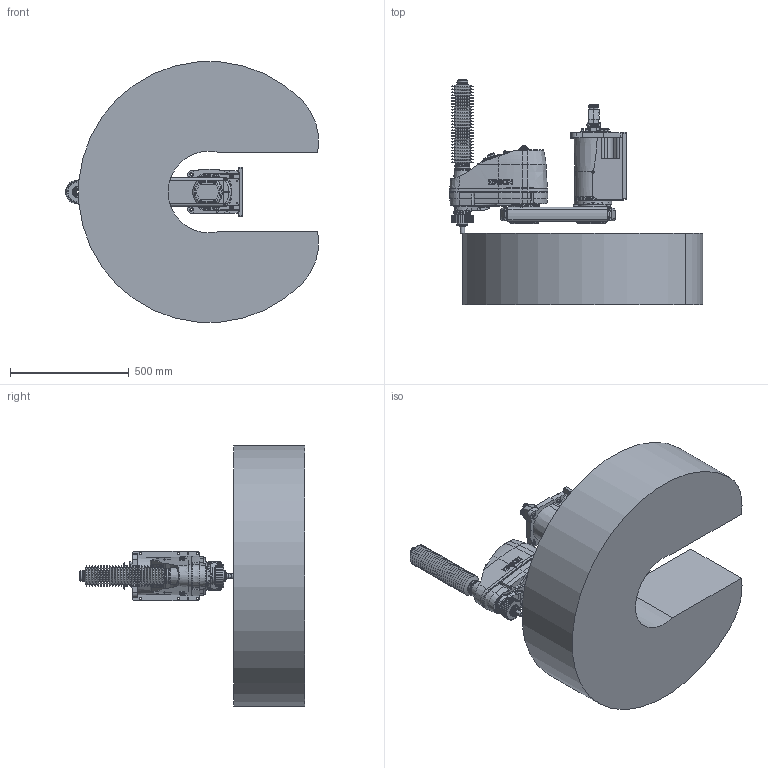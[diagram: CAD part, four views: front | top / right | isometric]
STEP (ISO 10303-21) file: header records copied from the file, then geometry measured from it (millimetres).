
FILE_DESCRIPTION( ( 'STEP AP214' ), '1' );
FILE_NAME( 'C:/Users/9607552/Desktop/GX8-B553CW_straight.stp', '2023-07-07T02:41:34', ( '' ), ( '' ), ' ', 'PARTsolutions', ' ' );
FILE_SCHEMA( ( 'AUTOMOTIVE_DESIGN { 1 0 10303 214 1 1 1 1 }' ) );
Length unit declared in the file: millimetre
Products named in the file (11): GX8-B553CWS-W; _B552CW_BASE; _B552CR; _B552CR_1; _B552CR_2; _B452C_J2; _B453CZA; _2-B-long; _2-B-short; _Straight-B; _GX8-18-1-B_WS
Assembly tree (12 placements, depth 2):
  GX8-B553CWS-W
    _B552CW_BASE
    _B552CR
    _B552CR_1  x2
    _B552CR_2  x2
    _B452C_J2
    _B453CZA
    _2-B-long
    _2-B-short
    _Straight-B
    _GX8-18-1-B_WS
Bounding box: 1066.99 x 950.5 x 1095.81 mm (x, y, z)
Volume: 238981863.1 mm3; surface area: 4332260.7 mm2
Topology: 12 solids, 16 shells, 3420 faces, 8227 edges, 5296 vertices
Faces by surface type: plane 1618, cylinder 1122, cone 476, torus 162, bspline 37, sphere 5
Full cylindrical faces by diameter (mm): 1 x48, 1.18 x55, 2.261 x4, 2.459 x12, 3 x32, 3.242 x18, 3.3 x4, 3.9 x4, 4.2 x8, 4.5 x12, 4.8 x5, 5.34 x4, 5.5 x17, 6 x6, 6.2 x4, 6.647 x4, 6.8 x2, 7 x42, 8 x5, 8.5 x4, 9 x24, 10 x24, 11 x4, 11.2 x5, 11.5 x1, 12 x5, 12.2 x1, 12.25 x1, 13 x7, 13.2 x12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
Entity records: 120913 total; most frequent: CARTESIAN_POINT 22377, DIRECTION 15120, ORIENTED_EDGE 13498, EDGE_CURVE 6749, AXIS2_PLACEMENT_3D 5952, VERTEX_POINT 4904, EDGE_LOOP 4681, FACE_OUTER_BOUND 3870
